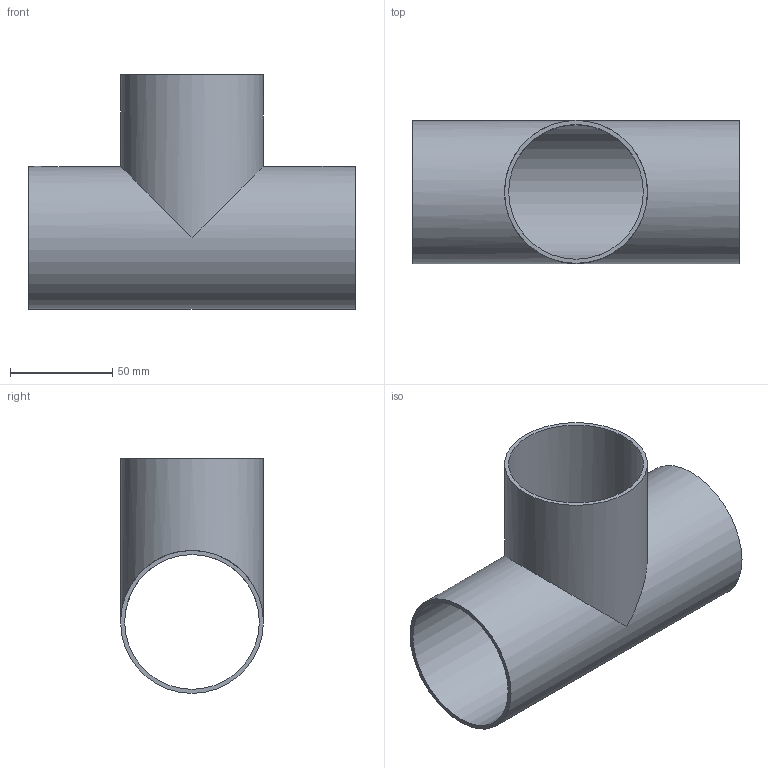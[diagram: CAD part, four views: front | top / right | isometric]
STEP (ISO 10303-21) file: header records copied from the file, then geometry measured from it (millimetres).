
FILE_DESCRIPTION(('FreeCAD Model'),'2;1');
FILE_NAME( '/home/martin/Documents/proyect/accesorios/stp/te_long_DN-65.step', '2018-01-07T08:11:37',('Author'),(''), 'Open CASCADE STEP processor 6.8','FreeCAD','Unknown');
FILE_SCHEMA(('AUTOMOTIVE_DESIGN_CC2 { 1 2 10303 214 -1 1 5 4 }'));
Length unit declared in the file: millimetre
Products named in the file (1): te_long_DN-65
Bounding box: 160 x 70 x 115 mm (x, y, z)
Volume: 84040.3 mm3; surface area: 85311.4 mm2
Topology: 1 solids, 1 shells, 7 faces, 16 edges, 12 vertices
Faces by surface type: cylinder 4, plane 3
Full cylindrical faces by diameter (mm): 66 x2, 70 x2
Entity records: 531 total; most frequent: CARTESIAN_POINT 172, DIRECTION 64, ORIENTED_EDGE 32, PCURVE 32, DEFINITIONAL_REPRESENTATION 32, AXIS2_PLACEMENT_3D 20, LINE 18, VECTOR 18
